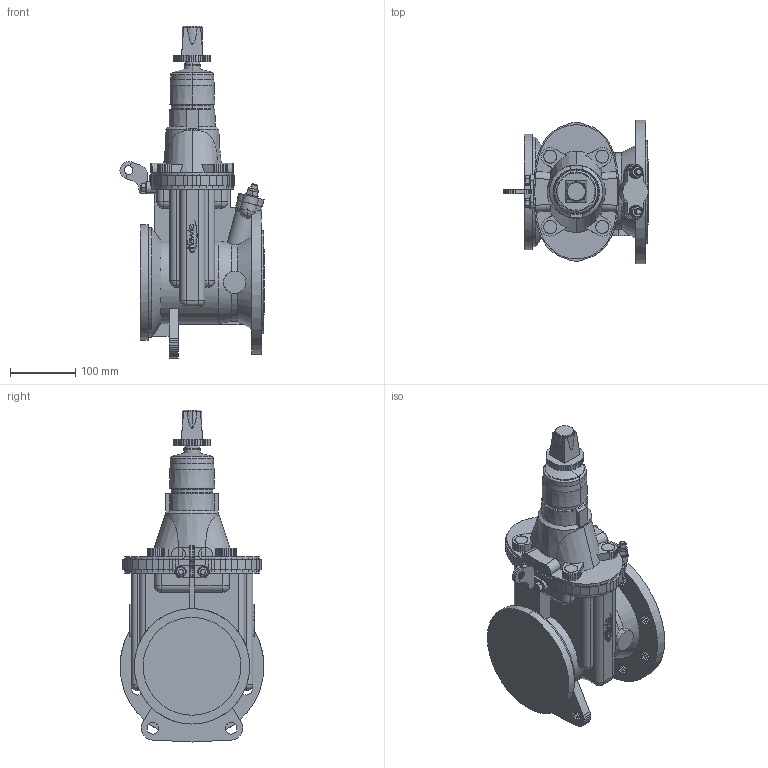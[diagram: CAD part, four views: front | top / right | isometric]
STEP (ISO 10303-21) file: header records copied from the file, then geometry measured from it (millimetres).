
FILE_DESCRIPTION(('CATIA V5 STEP Exchange','CAx-IF Rec.Pracs.--- Model Styling and Organization---1.2---2011-12-15'),'2;1');
FILE_NAME('S:\USER\CAT6\3DPlanerdaten_ab_2012\_pit-cup_ab_03-10-2016\4420\CATIA\4190E2_PN16_DN150-DN100-sauber.stp','2018-04-16T11:16:43+00:00',('none'),('none'),'CATIA Version 5 Release 21 SP 5 (IN-10)','CATIA V5 STEP AP214 Edition 3','none');
FILE_SCHEMA(('AUTOMOTIVE_DESIGN { 1 0 10303 214 3 1 1 1 }'));
Products named in the file (1): 4190E2_PN16_DN150-DN100
Bounding box: 220.89 x 220.6 x 509 mm (x, y, z)
Volume: 5935752 mm3; surface area: 450967.5 mm2
Topology: 8 solids, 12 shells, 1568 faces, 4440 edges, 2925 vertices
Faces by surface type: plane 1363, cylinder 141, cone 46, sphere 16, torus 2
Entity records: 53153 total; most frequent: CARTESIAN_POINT 11487, ORIENTED_EDGE 8848, DIRECTION 7268, EDGE_CURVE 4424, VECTOR 3882, LINE 3882, VERTEX_POINT 2925, AXIS2_PLACEMENT_3D 1824
